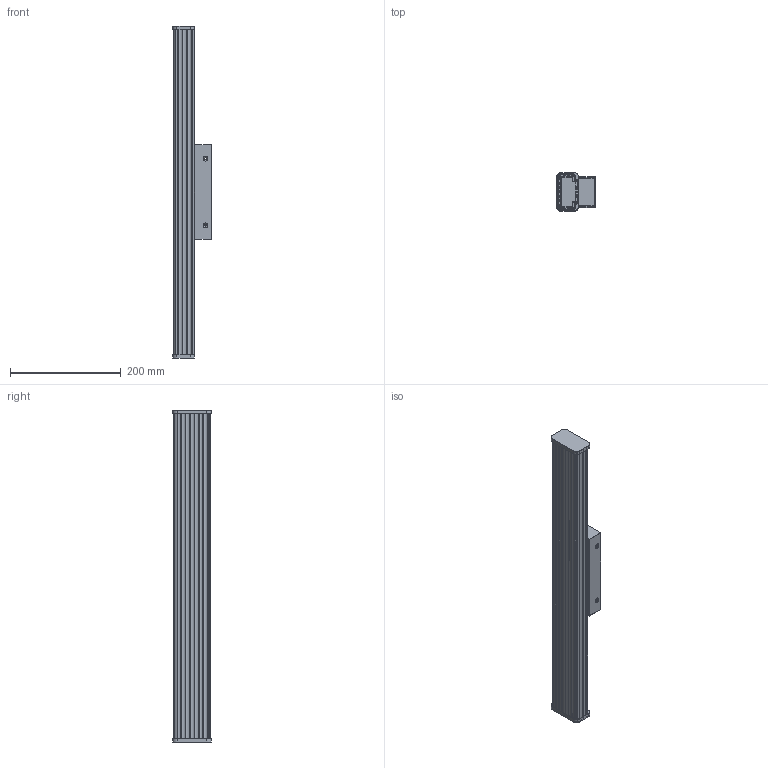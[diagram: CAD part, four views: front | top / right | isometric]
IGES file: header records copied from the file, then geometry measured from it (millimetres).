
Start section: SolidWorks IGES file using analytic representation for surfaces
Global section: file name: \\srvficheros\grupos\DISENYO\DESARROLLO DE PRODUCTO\_3D_WEB\DUNE-A3992070\DUNE-A3992070.IGS; native system: SolidWorks 2025; preprocessor: SolidWorks 2025; author: d.pons; date: 260113.114119; units: millimetre
Bounding box: 69.3 x 69 x 599 mm (x, y, z)
Surface area: 525111.3 mm2 (no closed solid volume)
Topology: 0 solids, 0 shells, 480 faces, 6426 edges, 6426 vertices
Faces by surface type: revolution 281, bspline 199
